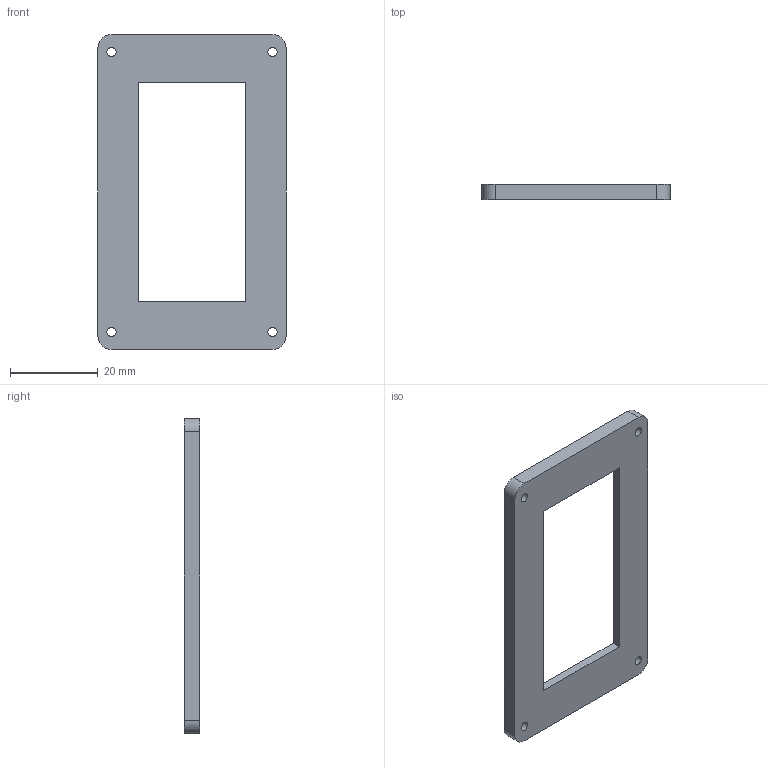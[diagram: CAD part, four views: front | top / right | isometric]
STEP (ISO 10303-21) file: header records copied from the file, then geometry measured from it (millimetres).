
FILE_DESCRIPTION(('Open CASCADE Model'),'2;1');
FILE_NAME('Open CASCADE Shape Model','2026-10-19T03:30:13',('Author'),( 'Open CASCADE'),'Open CASCADE STEP processor 7.9','Open CASCADE 7.9' ,'Unknown');
FILE_SCHEMA(('AUTOMOTIVE_DESIGN { 1 0 10303 214 1 1 1 1 }'));
Length unit declared in the file: millimetre
Products named in the file (1): Open CASCADE STEP translator 7.9 1
Bounding box: 43 x 3.5 x 72 mm (x, y, z)
Volume: 5587.8 mm3; surface area: 5172 mm2
Topology: 1 solids, 1 shells, 39 faces, 96 edges, 64 vertices
Faces by surface type: plane 23, cylinder 16
Full cylindrical faces by diameter (mm): 1.56 x4, 2.1 x4
Entity records: 2420 total; most frequent: CARTESIAN_POINT 466, DIRECTION 356, ORIENTED_EDGE 192, PCURVE 192, DEFINITIONAL_REPRESENTATION 192, LINE 186, VECTOR 186, EDGE_CURVE 96
